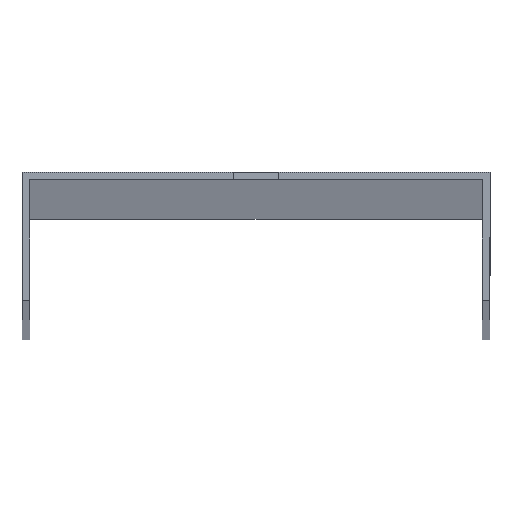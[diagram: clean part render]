
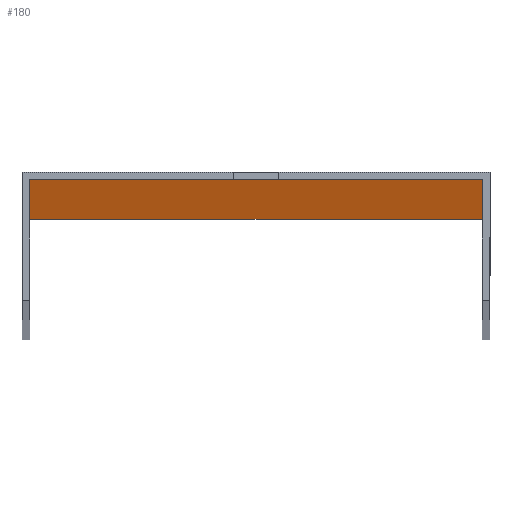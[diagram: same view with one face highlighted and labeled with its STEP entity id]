
A CAD part, top view. The second image highlights one B-rep face of the part: STEP entity #180.
In plain terms, the highlighted planar face has unit normal (0, -1, 0).
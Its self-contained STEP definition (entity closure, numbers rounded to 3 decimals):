
#2 = FACE_BOUND ( 'NONE', #291, .T. ) ;
#3 = VERTEX_POINT ( 'NONE', #223 ) ;
#6 = DIRECTION ( 'NONE',  ( 0., 0., 1. ) ) ;
#20 = VECTOR ( 'NONE', #358, 1000. ) ;
#27 = CARTESIAN_POINT ( 'NONE',  ( -3., -1., 1488.5 ) ) ;
#42 = CARTESIAN_POINT ( 'NONE',  ( 3., -1., 1488.5 ) ) ;
#48 = CARTESIAN_POINT ( 'NONE',  ( -3., -1., -1488.5 ) ) ;
#49 = EDGE_CURVE ( 'NONE', #454, #553, #587, .T. ) ;
#58 = VECTOR ( 'NONE', #83, 1000. ) ;
#73 = VERTEX_POINT ( 'NONE', #177 ) ;
#80 = LINE ( 'NONE', #218, #304 ) ;
#83 = DIRECTION ( 'NONE',  ( 1., 0., 0. ) ) ;
#89 = LINE ( 'NONE', #178, #390 ) ;
#94 = LINE ( 'NONE', #320, #131 ) ;
#100 = VERTEX_POINT ( 'NONE', #363 ) ;
#105 = PLANE ( 'NONE',  #370 ) ;
#111 = VERTEX_POINT ( 'NONE', #42 ) ;
#114 = VECTOR ( 'NONE', #328, 1000. ) ;
#127 = LINE ( 'NONE', #450, #58 ) ;
#131 = VECTOR ( 'NONE', #296, 1000. ) ;
#146 = CARTESIAN_POINT ( 'NONE',  ( -3., -1., 1500. ) ) ;
#151 = VERTEX_POINT ( 'NONE', #315 ) ;
#152 = CARTESIAN_POINT ( 'NONE',  ( 3., -1., 1500. ) ) ;
#153 = FACE_BOUND ( 'NONE', #231, .T. ) ;
#166 = VECTOR ( 'NONE', #300, 1000. ) ;
#170 = CARTESIAN_POINT ( 'NONE',  ( -30., -1., -1500. ) ) ;
#172 = EDGE_CURVE ( 'NONE', #192, #572, #495, .T. ) ;
#173 = DIRECTION ( 'NONE',  ( -1., 0., 0. ) ) ;
#177 = CARTESIAN_POINT ( 'NONE',  ( 30., -1., -1500. ) ) ;
#178 = CARTESIAN_POINT ( 'NONE',  ( -31., -1., 1488.5 ) ) ;
#179 = DIRECTION ( 'NONE',  ( -1., 0., 0. ) ) ;
#180 = ADVANCED_FACE ( 'NONE', ( #153, #332, #2 ), #105, .T. ) ;
#184 = ORIENTED_EDGE ( 'NONE', *, *, #244, .F. ) ;
#192 = VERTEX_POINT ( 'NONE', #337 ) ;
#196 = LINE ( 'NONE', #146, #355 ) ;
#204 = CARTESIAN_POINT ( 'NONE',  ( 30., -1., 1500. ) ) ;
#211 = LINE ( 'NONE', #521, #166 ) ;
#218 = CARTESIAN_POINT ( 'NONE',  ( -31., -1., -1500. ) ) ;
#223 = CARTESIAN_POINT ( 'NONE',  ( -3., -1., 1481.5 ) ) ;
#231 = EDGE_LOOP ( 'NONE', ( #509, #507, #389, #184 ) ) ;
#237 = EDGE_CURVE ( 'NONE', #342, #3, #94, .T. ) ;
#244 = EDGE_CURVE ( 'NONE', #3, #151, #211, .T. ) ;
#246 = ORIENTED_EDGE ( 'NONE', *, *, #585, .T. ) ;
#248 = ORIENTED_EDGE ( 'NONE', *, *, #329, .F. ) ;
#252 = ORIENTED_EDGE ( 'NONE', *, *, #538, .T. ) ;
#254 = ORIENTED_EDGE ( 'NONE', *, *, #374, .F. ) ;
#260 = ORIENTED_EDGE ( 'NONE', *, *, #449, .T. ) ;
#267 = VECTOR ( 'NONE', #384, 1000. ) ;
#277 = VECTOR ( 'NONE', #409, 1000. ) ;
#291 = EDGE_LOOP ( 'NONE', ( #350, #246, #364, #260 ) ) ;
#296 = DIRECTION ( 'NONE',  ( 0., 0., -1. ) ) ;
#297 = VERTEX_POINT ( 'NONE', #170 ) ;
#300 = DIRECTION ( 'NONE',  ( 1., 0., 0. ) ) ;
#304 = VECTOR ( 'NONE', #173, 1000. ) ;
#315 = CARTESIAN_POINT ( 'NONE',  ( 3., -1., 1481.5 ) ) ;
#320 = CARTESIAN_POINT ( 'NONE',  ( -3., -1., 1500. ) ) ;
#328 = DIRECTION ( 'NONE',  ( 0., 0., -1. ) ) ;
#329 = EDGE_CURVE ( 'NONE', #192, #73, #438, .T. ) ;
#331 = DIRECTION ( 'NONE',  ( 0., 0., 1. ) ) ;
#332 = FACE_OUTER_BOUND ( 'NONE', #472, .T. ) ;
#337 = CARTESIAN_POINT ( 'NONE',  ( 30., -1., 1500. ) ) ;
#342 = VERTEX_POINT ( 'NONE', #27 ) ;
#350 = ORIENTED_EDGE ( 'NONE', *, *, #49, .T. ) ;
#355 = VECTOR ( 'NONE', #6, 1000. ) ;
#358 = DIRECTION ( 'NONE',  ( 0., 0., -1. ) ) ;
#363 = CARTESIAN_POINT ( 'NONE',  ( 3., -1., -1481.5 ) ) ;
#364 = ORIENTED_EDGE ( 'NONE', *, *, #399, .T. ) ;
#365 = DIRECTION ( 'NONE',  ( -1., 0., 0. ) ) ;
#370 = AXIS2_PLACEMENT_3D ( 'NONE', #405, #465, #451 ) ;
#374 = EDGE_CURVE ( 'NONE', #73, #297, #80, .T. ) ;
#384 = DIRECTION ( 'NONE',  ( 0., 0., -1. ) ) ;
#389 = ORIENTED_EDGE ( 'NONE', *, *, #522, .F. ) ;
#390 = VECTOR ( 'NONE', #365, 1000. ) ;
#399 = EDGE_CURVE ( 'NONE', #452, #100, #127, .T. ) ;
#405 = CARTESIAN_POINT ( 'NONE',  ( -31., -1., 1500. ) ) ;
#407 = CARTESIAN_POINT ( 'NONE',  ( 3., -1., -1488.5 ) ) ;
#408 = EDGE_CURVE ( 'NONE', #111, #342, #89, .T. ) ;
#409 = DIRECTION ( 'NONE',  ( -1., 0., 0. ) ) ;
#418 = LINE ( 'NONE', #560, #114 ) ;
#427 = VECTOR ( 'NONE', #179, 1000. ) ;
#438 = LINE ( 'NONE', #204, #267 ) ;
#449 = EDGE_CURVE ( 'NONE', #100, #454, #541, .T. ) ;
#450 = CARTESIAN_POINT ( 'NONE',  ( -31., -1., -1481.5 ) ) ;
#451 = DIRECTION ( 'NONE',  ( 0., 0., -1. ) ) ;
#452 = VERTEX_POINT ( 'NONE', #494 ) ;
#454 = VERTEX_POINT ( 'NONE', #407 ) ;
#455 = CARTESIAN_POINT ( 'NONE',  ( -30., -1., 1500. ) ) ;
#460 = CARTESIAN_POINT ( 'NONE',  ( -31., -1., 1500. ) ) ;
#465 = DIRECTION ( 'NONE',  ( 0., -1., 0. ) ) ;
#472 = EDGE_LOOP ( 'NONE', ( #254, #248, #536, #252 ) ) ;
#494 = CARTESIAN_POINT ( 'NONE',  ( -3., -1., -1481.5 ) ) ;
#495 = LINE ( 'NONE', #460, #277 ) ;
#507 = ORIENTED_EDGE ( 'NONE', *, *, #408, .F. ) ;
#509 = ORIENTED_EDGE ( 'NONE', *, *, #237, .F. ) ;
#510 = LINE ( 'NONE', #152, #582 ) ;
#521 = CARTESIAN_POINT ( 'NONE',  ( -31., -1., 1481.5 ) ) ;
#522 = EDGE_CURVE ( 'NONE', #151, #111, #510, .T. ) ;
#534 = CARTESIAN_POINT ( 'NONE',  ( -31., -1., -1488.5 ) ) ;
#536 = ORIENTED_EDGE ( 'NONE', *, *, #172, .T. ) ;
#538 = EDGE_CURVE ( 'NONE', #572, #297, #418, .T. ) ;
#541 = LINE ( 'NONE', #583, #20 ) ;
#553 = VERTEX_POINT ( 'NONE', #48 ) ;
#560 = CARTESIAN_POINT ( 'NONE',  ( -30., -1., 1500. ) ) ;
#572 = VERTEX_POINT ( 'NONE', #455 ) ;
#582 = VECTOR ( 'NONE', #331, 1000. ) ;
#583 = CARTESIAN_POINT ( 'NONE',  ( 3., -1., 1500. ) ) ;
#585 = EDGE_CURVE ( 'NONE', #553, #452, #196, .T. ) ;
#587 = LINE ( 'NONE', #534, #427 ) ;
